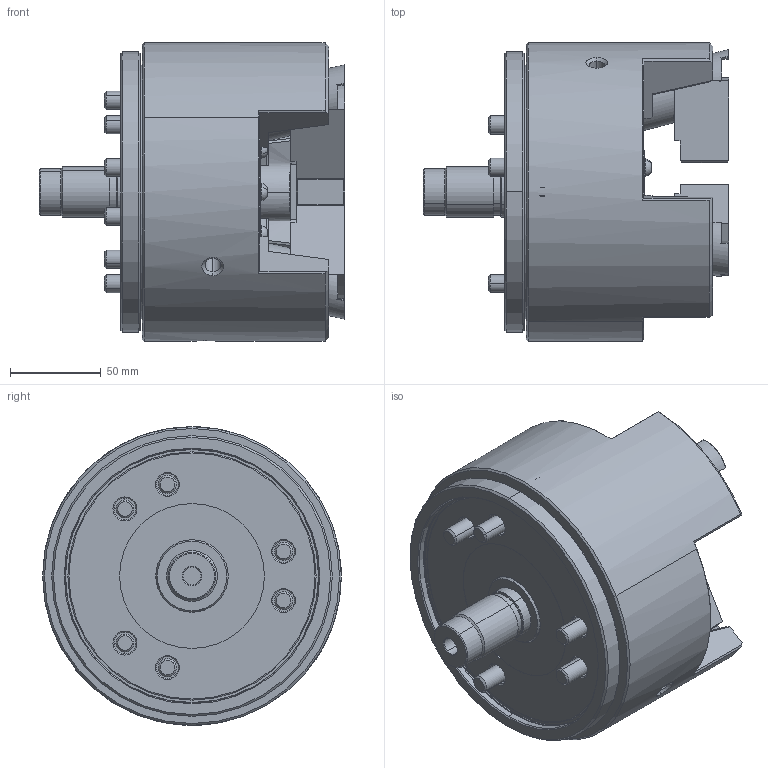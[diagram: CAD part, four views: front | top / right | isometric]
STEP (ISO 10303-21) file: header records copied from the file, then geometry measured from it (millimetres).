
FILE_DESCRIPTION (( 'STEP AP203' ), '1' );
FILE_NAME ('PU206_UC.STEP', '2025-02-14T01:12:18', ( '' ), ( '' ), 'SwSTEP 2.0', 'SolidWorks 2022', '' );
FILE_SCHEMA (( 'CONFIG_CONTROL_DESIGN' ));
Length unit declared in the file: millimetre
Products named in the file (8): 0030110070; 61P427269; Part1^61P224612_dummy; 61P332352; 0030110025; 0080010606; 0033105010; PU206_UC
Assembly tree (18 placements, depth 2):
  PU206_UC
    61P332352  x3
    61P427269
    0033105010  x3
    0030110025  x3
    0080010606
    0030110070  x6
    Part1^61P224612_dummy
Bounding box: 169 x 165 x 165 mm (x, y, z)
Volume: 1809162.7 mm3; surface area: 199734.5 mm2
Topology: 18 solids, 18 shells, 1079 faces, 2764 edges, 1768 vertices
Faces by surface type: plane 477, cone 230, cylinder 184, bspline 165, torus 21, sphere 2
Entity records: 37354 total; most frequent: CARTESIAN_POINT 16740, ORIENTED_EDGE 4404, DIRECTION 3438, EDGE_CURVE 2202, VERTEX_POINT 1429, AXIS2_PLACEMENT_3D 1161, VECTOR 1116, LINE 1116
